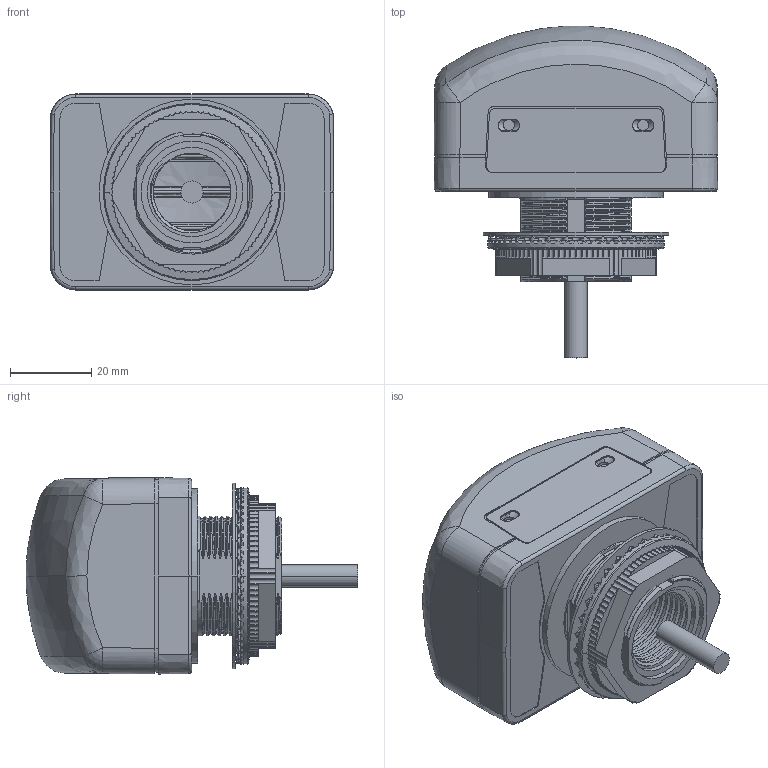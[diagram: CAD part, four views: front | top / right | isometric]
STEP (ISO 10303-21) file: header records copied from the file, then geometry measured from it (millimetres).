
FILE_DESCRIPTION((''),'2;1');
FILE_NAME('40194-465_ASM','2013-10-03T',('Gkariappa'),(''),'PRO/ENGINEER BY PARAMETRIC TECHNOLOGY CORPORATION, 2010140','PRO/ENGINEER BY PARAMETRIC TECHNOLOGY CORPORATION, 2010140','');
FILE_SCHEMA(('CONFIG_CONTROL_DESIGN'));
Products named in the file (14): 40194-183; 40194-328_ASM; 40194-185; 40194-184-FORM; 40194-94284800; 10000010354; 40194-326_ASM; 40194-LABEL; 40194-456-30MMGSKT; 40194-465-LOCKWSHR; 40194-7501203601; 40194-7501203501; CABLE1; 40194-465_ASM
Assembly tree (14 placements, depth 3):
  40194-465_ASM
    40194-328_ASM
      40194-183
    40194-326_ASM
      40194-185
      40194-184-FORM  x2
      40194-94284800
      10000010354
    40194-LABEL
    40194-456-30MMGSKT
    40194-465-LOCKWSHR
    40194-7501203601
    40194-7501203501
    CABLE1
Bounding box: 69.85 x 81.72 x 48.26 mm (x, y, z)
Volume: 39652 mm3; surface area: 51647.6 mm2
Topology: 12 solids, 16 shells, 1757 faces, 4953 edges, 3236 vertices
Faces by surface type: plane 809, cylinder 452, bspline 376, cone 55, torus 43, sphere 18, extrusion 4
Entity records: 146497 total; most frequent: CARTESIAN_POINT 106908, ORIENTED_EDGE 9644, DIRECTION 6023, EDGE_CURVE 4838, VERTEX_POINT 3154, B_SPLINE_CURVE_WITH_KNOTS 2298, AXIS2_PLACEMENT_3D 2087, VECTOR 1849
